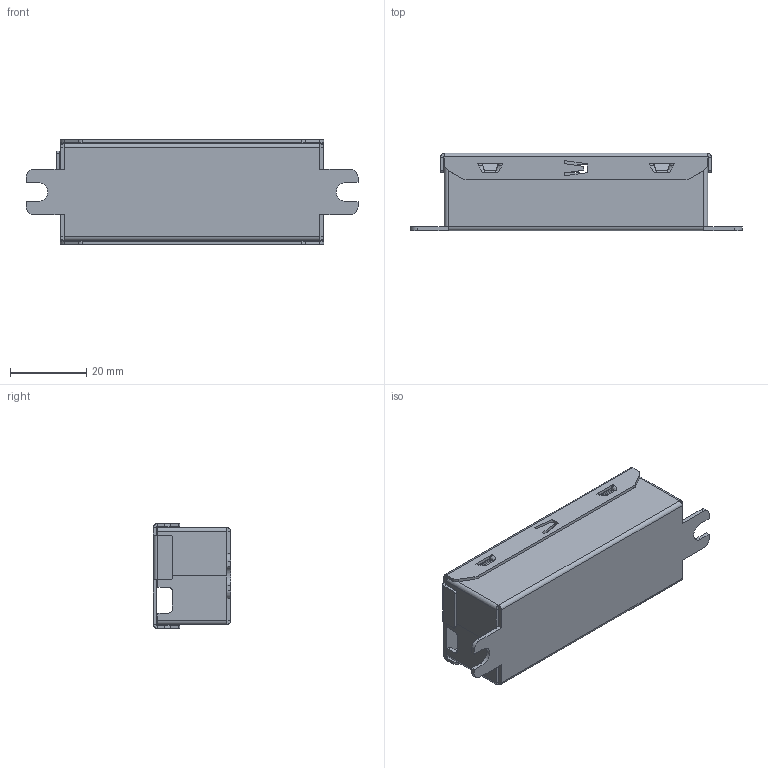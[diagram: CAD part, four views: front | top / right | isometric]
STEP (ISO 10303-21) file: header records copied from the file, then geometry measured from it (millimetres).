
FILE_DESCRIPTION((''),'2;1');
FILE_NAME('SLC010M_CASE_ASM','2025-08-13T17:51:12',('Administrator'),(''),'CREO PARAMETRIC BY PTC INC, 2020053','CREO PARAMETRIC BY PTC INC, 2020053','');
FILE_SCHEMA(('CONFIG_CONTROL_DESIGN','SHAPE_APPEARANCE_LAYERS_GROUPS'));
Length unit declared in the file: millimetre
Products named in the file (3): SLC010M_BOTTOM; SLC010M_TOP; SLC010M_CASE_ASM
Assembly tree (2 placements, depth 2):
  SLC010M_CASE_ASM
    SLC010M_BOTTOM
    SLC010M_TOP
Bounding box: 87 x 20.3 x 27.4 mm (x, y, z)
Volume: 7221.7 mm3; surface area: 16349.8 mm2
Topology: 2 solids, 2 shells, 308 faces, 736 edges, 432 vertices
Faces by surface type: plane 190, cylinder 86, bspline 32
Entity records: 16062 total; most frequent: CARTESIAN_POINT 4469, ORIENTED_EDGE 1472, DIRECTION 1358, PRESENTATION_STYLE_ASSIGNMENT 1046, STYLED_ITEM 1046, CURVE_STYLE 736, EDGE_CURVE 736, VECTOR 548
